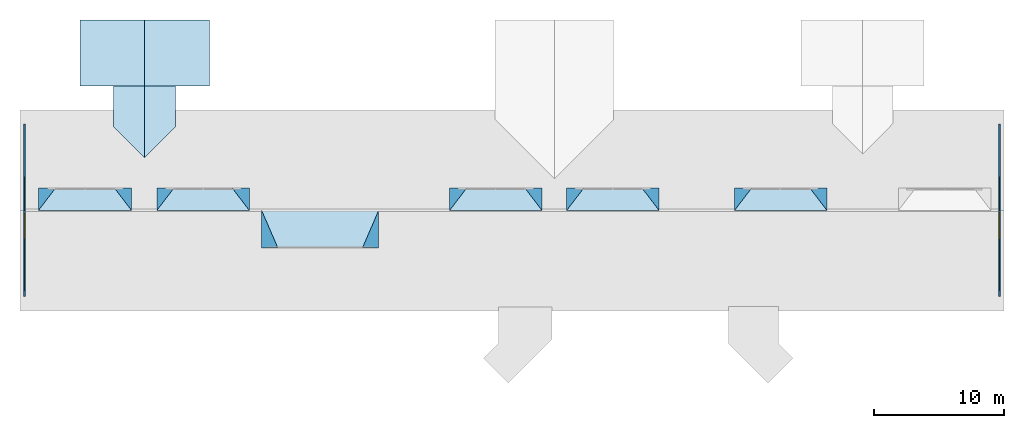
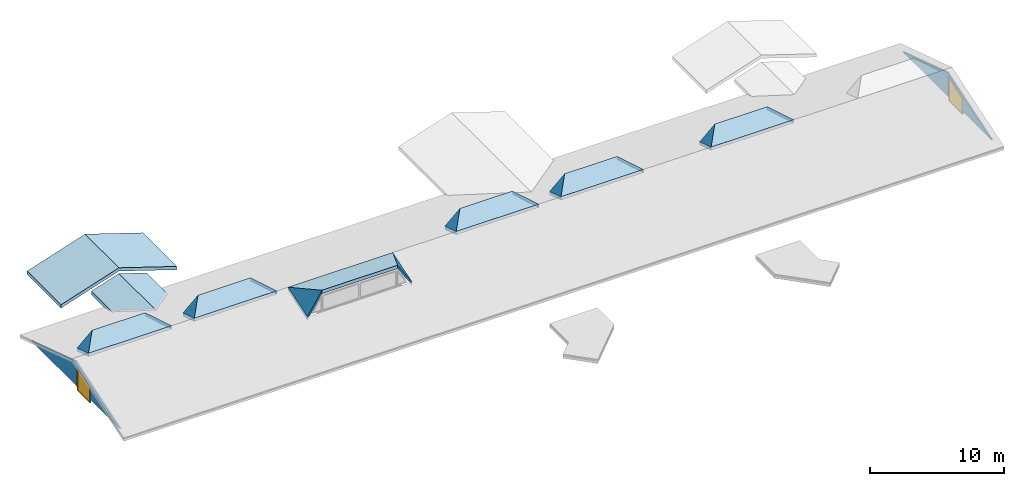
# One storey, part 1 of 7: 20 roofs, 2 walls, 2 windows, 2 openings.
"""IFC2X3 building model written with IfcOpenShell, lengths in millimetres."""

from ifc_helpers import new_model, entity, si_unit, converted_unit, derived_unit, money_unit, direction, frame, origin_with_axes, place, context, subcontext, project, spatial, open_shell, faceted_brep, surface_model, source, transform, mapped, material, type_object, element, fill, save


model = new_model("IFC2X3")

# Units and contexts
model_context = context("Model", 3, precision=0.01, world=origin_with_axes(), true_north=direction((0.0, 1.0)))
body_context = subcontext(model_context, "Body", "Model", "MODEL_VIEW")
ifc_project = project(units=[si_unit("LENGTHUNIT", "METRE", prefix="MILLI"), si_unit("AREAUNIT", "SQUARE_METRE"), si_unit("VOLUMEUNIT", "CUBIC_METRE"), converted_unit("PLANEANGLEUNIT", "DEGREE", entity("IfcPlaneAngleMeasure", 0.0174532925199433), si_unit("PLANEANGLEUNIT", "RADIAN"), dimensions=[0, 0, 0, 0, 0, 0, 0]), money_unit("USD"), converted_unit("TIMEUNIT", "Year", entity("IfcTimeMeasure", 31557600.0), si_unit("TIMEUNIT", "SECOND"), dimensions=[0, 0, 1, 0, 0, 0, 0]), si_unit("MASSUNIT", "GRAM", prefix="KILO"), si_unit("THERMODYNAMICTEMPERATUREUNIT", "DEGREE_CELSIUS"), si_unit("LUMINOUSINTENSITYUNIT", "LUMEN"), si_unit("ENERGYUNIT", "JOULE", prefix="MEGA"), derived_unit("THERMALCONDUCTANCEUNIT", [(si_unit("POWERUNIT", "WATT"), 1), (si_unit("LENGTHUNIT", "METRE"), -1), (si_unit("THERMODYNAMICTEMPERATUREUNIT", "KELVIN"), -1)]), derived_unit("SPECIFICHEATCAPACITYUNIT", [(si_unit("ENERGYUNIT", "JOULE"), 1), (si_unit("MASSUNIT", "GRAM", prefix="KILO"), -1), (si_unit("THERMODYNAMICTEMPERATUREUNIT", "KELVIN"), -1)]), derived_unit("MASSDENSITYUNIT", [(si_unit("MASSUNIT", "GRAM", prefix="KILO"), 1), (si_unit("VOLUMEUNIT", "CUBIC_METRE"), -1)])], contexts=[model_context])

# Site, building, storey
site_placement = place(None, origin_with_axes())
site = spatial("IfcSite", under=ifc_project, at=site_placement, Name="Site", CompositionType="ELEMENT")
building_placement = place(site_placement, origin_with_axes())
building = spatial("IfcBuilding", under=site, at=building_placement, Name="Building", CompositionType="ELEMENT")
storey_placement = place(building_placement, frame((0.0, 0.0, 5900.0), z_axis=(0.0, 0.0, 1.0), x_axis=(1.0, 0.0, 0.0)))
storey = spatial("IfcBuildingStorey", under=building, at=storey_placement, Name="TAK", CompositionType="ELEMENT", Elevation=5900.0)

# Wall, opening, window
ifc_material_1 = material(Name="GENERIC - STRUCTURAL")
wall_type = type_object("IfcWallType", Name="GENERIC - STRUCTURAL 120", PredefinedType="NOTDEFINED")
wall_1_placement = place(storey_placement, frame((72390.0, 7199.999999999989, 0.0), z_axis=(0.0, 0.0, 1.0), x_axis=(0.0, 1.0, 0.0)))
wall_1 = element("IfcWall", 1, at=wall_1_placement, inside=storey, type_object=wall_type, material=ifc_material_1, Name="SW - 001", context=body_context, shape_type="Brep", body=[
    faceted_brep([(5085.2615628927, -119.9999999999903, 0.0), (5085.2615628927, -119.9999999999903, 1129.71220870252), (7149.33174533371, -119.9999999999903, 1847.67868258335), (7149.331745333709, -119.9999999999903, 0.0), (13919.44143754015, -119.9999999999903, 0.0), (7300.062761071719, -120.0000000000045, 2148.536255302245), (680.6840855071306, -119.9999999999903, 0.0), (5085.2615628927, 0.0, 0.0), (5085.2615628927, 0.0, 1129.71220870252), (7149.33174533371, 0.0, 1847.67868258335), (7149.331745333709, 0.0, 0.0), (13919.44143754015, 0.0, 0.0), (7300.062761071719, 0.0, 2148.536255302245), (680.6840855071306, 0.0, 0.0)], [[[0, 1, 2, 3, 4, 5, 6]], [[1, 0, 7, 8]], [[2, 1, 8, 9]], [[3, 2, 9, 10]], [[3, 10, 11, 4]], [[5, 4, 11, 12]], [[6, 5, 12, 13]], [[7, 0, 6, 13]], [[8, 7, 13, 12, 11, 10, 9]]]),
])
opening_1_placement = place(wall_1_placement, frame((6117.296654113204, 0.0, -370.2877912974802), z_axis=(0.0, 0.0, 1.0), x_axis=(1.0, 0.0, 0.0)))
opening_1 = element("IfcOpeningElement", 2, at=opening_1_placement, cuts=wall_1, Name="WD - 001", context=body_context, shape_type="Brep", body=[
    faceted_brep([(1032.035091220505, 1.000000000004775, 2217.96647388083), (1032.035091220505, 1.000000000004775, 0.0), (-1032.035091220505, 1.000000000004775, 0.0), (-1032.035091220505, 1.000000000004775, 1500.0), (1032.035091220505, -121.0000000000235, 2217.96647388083), (1032.035091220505, -121.0000000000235, 0.0), (-1032.035091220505, -121.0000000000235, 0.0), (-1032.035091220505, -121.0000000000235, 1500.0)], [[[0, 1, 2, 3]], [[4, 5, 1, 0]], [[5, 6, 2, 1]], [[6, 7, 3, 2]], [[7, 4, 0, 3]], [[6, 5, 4, 7]]]),
])
window_style = type_object("IfcWindowStyle", Name="Vindu med skrå topp", ConstructionType="NOTDEFINED", OperationType="USERDEFINED", ParameterTakesPrecedence=False, Sizeable=False)
shared_shape_1 = source(origin_with_axes(), body_context, "Body", "SurfaceModel", [
    faceted_brep([(966.0350912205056, -92.00000000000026, 2125.130239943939), (1032.035091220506, -92.00000000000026, 2125.130239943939), (1032.035091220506, 0.0, 2125.130239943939), (966.0350912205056, 0.0, 2125.130239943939), (966.0350912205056, -92.0, 66.0), (1032.035091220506, -92.0, 66.0), (1032.035091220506, 0.0, 66.0), (966.0350912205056, 0.0, 66.0)], [[[0, 1, 2, 3]], [[0, 4, 5, 1]], [[1, 5, 6, 2]], [[3, 2, 6, 7]], [[4, 0, 3, 7]], [[5, 4, 7, 6]]]),
    faceted_brep([(-966.0350912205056, -92.0, 66.0), (-1032.035091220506, -92.0, 66.0), (-1032.035091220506, 0.0, 66.0), (-966.0350912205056, 0.0, 66.0), (-966.0350912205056, -92.00000000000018, 1453.078665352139), (-1032.035091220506, -92.00000000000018, 1453.078665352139), (-1032.035091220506, 0.0, 1453.078665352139), (-966.0350912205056, 0.0, 1453.078665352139)], [[[0, 1, 2, 3]], [[0, 4, 5, 1]], [[1, 5, 6, 2]], [[3, 2, 6, 7]], [[4, 0, 3, 7]], [[5, 4, 7, 6]]]),
    faceted_brep([(1032.035091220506, -92.00000000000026, 2217.96647388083), (1032.035091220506, -92.00000000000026, 2125.130239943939), (1032.035091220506, 0.0, 2125.130239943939), (1032.035091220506, 0.0, 2217.96647388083), (-1032.035091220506, -92.00000000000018, 1500.0), (-1032.035091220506, -92.00000000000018, 1453.078665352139), (-966.0350912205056, -92.00000000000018, 1453.078665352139), (966.0350912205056, -92.00000000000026, 2125.130239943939), (966.0350912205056, 0.0, 2125.130239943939), (-966.0350912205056, 0.0, 1453.078665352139), (-1032.035091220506, 0.0, 1453.078665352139), (-1032.035091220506, 0.0, 1500.0)], [[[0, 1, 2, 3]], [[0, 4, 5, 6, 7, 1]], [[1, 7, 8, 2]], [[3, 2, 8, 9, 10, 11]], [[4, 0, 3, 11]], [[5, 4, 11, 10]], [[6, 5, 10, 9]], [[7, 6, 9, 8]]]),
    faceted_brep([(-1032.035091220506, -92.0, 0.0), (-1032.035091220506, -92.0, 66.0), (-1032.035091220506, 0.0, 66.0), (-1032.035091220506, 0.0, 0.0), (1032.035091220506, -92.0, 0.0), (1032.035091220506, -92.0, 66.0), (966.0350912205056, -92.0, 66.0), (-966.0350912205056, -92.0, 66.0), (-966.0350912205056, 0.0, 66.0), (966.0350912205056, 0.0, 66.0), (1032.035091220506, 0.0, 66.0), (1032.035091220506, 0.0, 0.0)], [[[0, 1, 2, 3]], [[0, 4, 5, 6, 7, 1]], [[1, 7, 8, 2]], [[3, 2, 8, 9, 10, 11]], [[4, 0, 3, 11]], [[5, 4, 11, 10]], [[6, 5, 10, 9]], [[7, 6, 9, 8]]]),
    surface_model("IfcShellBasedSurfaceModel", [(966.0350912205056, -56.0, 66.0), (966.0350912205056, -56.00000000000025, 2125.130239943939), (-966.0350912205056, -56.00000000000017, 1453.078665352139), (-966.0350912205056, -56.0, 66.0)], [open_shell([[[0, 1, 2, 3]]])]),
    surface_model("IfcShellBasedSurfaceModel", [(966.0350912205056, -36.00000000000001, 66.0), (-966.0350912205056, -36.00000000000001, 66.0), (-966.0350912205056, -36.00000000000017, 1453.078665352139), (966.0350912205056, -36.00000000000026, 2125.130239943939)], [open_shell([[[0, 1, 2, 3]]])]),
])
window_1_placement = place(opening_1_placement, frame((-1032.035091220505, 0.0, 0.0), z_axis=(0.0, 0.0, 1.0), x_axis=(1.0, 0.0, 0.0)))
window_1 = element("IfcWindow", 3, at=window_1_placement, inside=storey, type_object=window_style, Name="WD - 001", ObjectType="WINDOW", OverallHeight=2217.97, OverallWidth=2064.07, context=body_context, shape_type="MappedRepresentation", body=[
    mapped(shared_shape_1, transform((1032.035091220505, -28.0000000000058, 0.0))),
])
fill(opening_1, window_1)

wall_2_placement = place(storey_placement, frame((-2400.260572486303, 21800.12552457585, 0.0), z_axis=(0.0, 0.0, 1.0), x_axis=(0.0, -1.0, 0.0)))
wall_2 = element("IfcWall", 4, at=wall_2_placement, inside=storey, type_object=wall_type, material=ifc_material_1, Name="SW - 001", context=body_context, shape_type="Brep", body=[
    faceted_brep([(9467.615796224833, 0.0, 0.0), (9467.615796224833, 0.0, 1129.71220870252), (7532.382365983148, 0.0, 1760.430302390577), (7532.382365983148, 0.0, 0.0), (680.6840870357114, 0.0, 0.0), (7300.062763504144, 0.0, 2148.536255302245), (13919.44143906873, 0.0, 0.0), (9467.615796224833, -120.0000000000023, 0.0), (9467.615796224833, -120.0000000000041, 1129.71220870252), (7532.382365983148, -120.0000000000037, 1760.430302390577), (7532.382365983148, -120.000000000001, 0.0), (680.6840870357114, -119.9999999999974, 0.0), (7300.062763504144, -119.9999999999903, 2148.536255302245), (13919.44143906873, -120.0000000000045, 0.0)], [[[0, 1, 2, 3, 4, 5, 6]], [[1, 0, 7, 8]], [[2, 1, 8, 9]], [[3, 2, 9, 10]], [[3, 10, 11, 4]], [[5, 4, 11, 12]], [[6, 5, 12, 13]], [[7, 0, 6, 13]], [[8, 7, 13, 12, 11, 10, 9]]]),
])
opening_2_placement = place(wall_2_placement, frame((8499.99908110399, 0.0, -370.2877912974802), z_axis=(0.0, 0.0, 1.0), x_axis=(1.0, 0.0, 0.0)))
opening_2 = element("IfcOpeningElement", 5, at=opening_2_placement, cuts=wall_2, Name="WD - 001", context=body_context, shape_type="Brep", body=[
    faceted_brep([(967.6167151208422, 0.9999999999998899, 1500.0), (967.6167151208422, 0.9999999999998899, 0.0), (-967.6167151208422, 0.9999999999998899, 0.0), (-967.6167151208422, 1.000000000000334, 2130.718093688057), (967.6167151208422, -121.0, 1500.0), (967.6167151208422, -121.0, 0.0), (-967.6167151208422, -121.0, 0.0), (-967.6167151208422, -120.9999999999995, 2130.718093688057)], [[[0, 1, 2, 3]], [[4, 5, 1, 0]], [[5, 6, 2, 1]], [[6, 7, 3, 2]], [[7, 4, 0, 3]], [[6, 5, 4, 7]]]),
])
shared_shape_2 = source(origin_with_axes(), body_context, "Body", "SurfaceModel", [
    faceted_brep([(-901.6167151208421, -92.00000000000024, 2039.791026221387), (-901.6167151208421, 0.0, 2039.791026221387), (-967.6167151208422, 0.0, 2039.791026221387), (-967.6167151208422, -92.00000000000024, 2039.791026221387), (-901.6167151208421, -92.0, 66.0), (-901.6167151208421, 0.0, 66.0), (-967.6167151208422, 0.0, 66.0), (-967.6167151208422, -92.0, 66.0)], [[[0, 1, 2, 3]], [[4, 5, 1, 0]], [[1, 5, 6, 2]], [[3, 2, 6, 7]], [[0, 3, 7, 4]], [[7, 6, 5, 4]]]),
    faceted_brep([(901.6167151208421, -92.0, 66.0), (901.6167151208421, 0.0, 66.0), (967.6167151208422, 0.0, 66.0), (967.6167151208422, -92.0, 66.0), (901.6167151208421, -92.00000000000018, 1452.093473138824), (901.6167151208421, 0.0, 1452.093473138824), (967.6167151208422, 0.0, 1452.093473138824), (967.6167151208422, -92.00000000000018, 1452.093473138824)], [[[0, 1, 2, 3]], [[4, 5, 1, 0]], [[1, 5, 6, 2]], [[3, 2, 6, 7]], [[0, 3, 7, 4]], [[7, 6, 5, 4]]]),
    faceted_brep([(-967.6167151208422, -92.00000000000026, 2130.718093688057), (-967.6167151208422, 0.0, 2130.718093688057), (-967.6167151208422, 0.0, 2039.791026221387), (-967.6167151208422, -92.00000000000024, 2039.791026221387), (967.6167151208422, -92.00000000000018, 1500.0), (967.6167151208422, 0.0, 1500.0), (967.6167151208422, 0.0, 1452.093473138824), (901.6167151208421, 0.0, 1452.093473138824), (-901.6167151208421, 0.0, 2039.791026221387), (-901.6167151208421, -92.00000000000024, 2039.791026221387), (901.6167151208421, -92.00000000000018, 1452.093473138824), (967.6167151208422, -92.00000000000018, 1452.093473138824)], [[[0, 1, 2, 3]], [[4, 5, 1, 0]], [[1, 5, 6, 7, 8, 2]], [[3, 2, 8, 9]], [[0, 3, 9, 10, 11, 4]], [[11, 6, 5, 4]], [[10, 7, 6, 11]], [[9, 8, 7, 10]]]),
    faceted_brep([(967.6167151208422, -92.0, 0.0), (967.6167151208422, 0.0, 0.0), (967.6167151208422, 0.0, 66.0), (967.6167151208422, -92.0, 66.0), (-967.6167151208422, -92.0, 0.0), (-967.6167151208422, 0.0, 0.0), (-967.6167151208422, 0.0, 66.0), (-901.6167151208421, 0.0, 66.0), (901.6167151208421, 0.0, 66.0), (901.6167151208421, -92.0, 66.0), (-901.6167151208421, -92.0, 66.0), (-967.6167151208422, -92.0, 66.0)], [[[0, 1, 2, 3]], [[4, 5, 1, 0]], [[1, 5, 6, 7, 8, 2]], [[3, 2, 8, 9]], [[0, 3, 9, 10, 11, 4]], [[11, 6, 5, 4]], [[10, 7, 6, 11]], [[9, 8, 7, 10]]]),
    surface_model("IfcShellBasedSurfaceModel", [(-901.6167151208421, -56.0, 66.0), (901.6167151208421, -56.0, 66.0), (901.6167151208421, -56.00000000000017, 1452.093473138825), (-901.6167151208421, -56.00000000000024, 2039.791026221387)], [open_shell([[[0, 1, 2, 3]]])]),
    surface_model("IfcShellBasedSurfaceModel", [(-901.6167151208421, -36.00000000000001, 66.0), (-901.6167151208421, -36.00000000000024, 2039.791026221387), (901.6167151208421, -36.00000000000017, 1452.093473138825), (901.6167151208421, -36.00000000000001, 66.0)], [open_shell([[[0, 1, 2, 3]]])]),
])
window_2_placement = place(opening_2_placement, frame((-967.6167151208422, 0.0, 0.0), z_axis=(0.0, 0.0, 1.0), x_axis=(1.0, 0.0, 0.0)))
window_2 = element("IfcWindow", 6, at=window_2_placement, inside=storey, type_object=window_style, Name="WD - 001", ObjectType="WINDOW", OverallHeight=2130.72, OverallWidth=1935.23, context=body_context, shape_type="MappedRepresentation", body=[
    mapped(shared_shape_2, transform((967.6167151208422, -28.0000000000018, 0.0))),
])
fill(opening_2, window_2)

# Roofs
ifc_material_2 = material(Name="Membrane - Waterproof")
roof_1_placement = place(storey_placement, frame((6752.558934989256, 26599.93084139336, -281.2311378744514), z_axis=(0.0, 0.0, 1.0), x_axis=(1.0, 0.0, 0.0)))
element("IfcRoof", 7, at=roof_1_placement, inside=storey, material=ifc_material_2, Name="RT - 001", ShapeType="NOTDEFINED", context=body_context, shape_type="Brep", body=[
    faceted_brep([(-4975.037325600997, 2525.069162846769, 235.8353531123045), (-4975.037325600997, -2525.069162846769, 235.8353531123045), (-2.558546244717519, -2525.069163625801, 1851.49293080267), (-2.558546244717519, 2525.069161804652, 1851.49293080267), (-4975.037325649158, 2525.069163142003, -64.16467008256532), (-4975.037325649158, -2525.069163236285, -64.16467008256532), (-2.558550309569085, -2525.069163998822, 1551.492906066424), (4975.037325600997, -2525.069162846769, 234.1725453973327), (4975.037325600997, 2525.069162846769, 234.1725453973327), (-2.558550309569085, 2525.06916144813, 1551.492906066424), (4975.037325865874, -2525.069163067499, -65.82748074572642), (4975.037325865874, 2525.069163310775, -65.82748074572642)], [[[0, 1, 2, 3]], [[0, 4, 5, 1]], [[1, 5, 6, 2]], [[7, 8, 3, 2]], [[4, 0, 3, 9]], [[5, 4, 9, 6]], [[10, 7, 2, 6]], [[7, 10, 11, 8]], [[8, 11, 9, 3]], [[11, 10, 6, 9]]]),
])
roof_2_placement = place(storey_placement, frame((6750.000390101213, 20686.7998855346, -22.36052420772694), z_axis=(0.0, 0.0, 1.0), x_axis=(1.0, 0.0, 0.0)))
element("IfcRoof", 8, at=roof_2_placement, inside=storey, material=ifc_material_2, Name="RT - 001", ShapeType="NOTDEFINED", context=body_context, shape_type="Brep", body=[
    faceted_brep([(2375.000390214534, 3388.061793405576, -6.56552145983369e-07), (2375.000390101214, 3388.061793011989, 299.9999998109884), (2375.000390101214, 225.089423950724, 299.9999998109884), (2375.000390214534, 1149.352908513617, -6.565530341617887e-07), (-8.516813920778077e-07, 3388.061792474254, 771.6844049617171), (-6.187939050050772e-07, 3388.061792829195, 1071.684405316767), (-6.187939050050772e-07, -2152.37629772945, 1071.684405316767), (-2375.000390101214, 225.0894234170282, 299.9999999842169), (-2375.000389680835, 1149.352906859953, -1.198019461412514e-07), (-2.308357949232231e-06, -1228.112813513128, 771.6844049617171), (-2375.000389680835, 3388.061793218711, -3.099147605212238e-07), (-2375.000390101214, 3388.061793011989, 299.9999999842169)], [[[0, 1, 2, 3]], [[4, 5, 1, 0]], [[1, 5, 6, 2]], [[7, 8, 9, 3, 2, 6]], [[4, 0, 3, 9]], [[5, 4, 10, 11]], [[5, 11, 7, 6]], [[11, 10, 8, 7]], [[10, 4, 9, 8]]]),
])
roof_3_placement = place(storey_placement, frame((16000.65490592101, 14551.63263065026, 2576.123532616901), z_axis=(0.0, 0.0, 1.0), x_axis=(0.2015196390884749, -0.9794844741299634, 0.0)))
element("IfcRoof", 9, at=roof_3_placement, inside=storey, material=ifc_material_2, Name="RT - 001", ShapeType="NOTDEFINED", context=body_context, shape_type="Brep", body=[
    faceted_brep([(2826.242841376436, -837.3775847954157, -1048.743655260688), (3078.142390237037, 386.978007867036, 923.2960402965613), (0.0, -255.9049301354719, -112.1798303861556), (3078.142390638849, 386.9780080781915, 623.2960403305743), (2826.242841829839, -837.3775848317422, -1348.743655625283), (1.868727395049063e-08, -255.9049298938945, -412.1798303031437)], [[[0, 1, 2]], [[3, 1, 0, 4]], [[5, 2, 1, 3]], [[4, 0, 2, 5]], [[4, 5, 3]]]),
])
roof_4_placement = place(storey_placement, frame((52099.99999999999, 14500.06276148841, 2163.943702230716), z_axis=(0.0, 0.0, 1.0), x_axis=(0.3413713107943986, 0.9399285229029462, 0.0)))
element("IfcRoof", 10, at=roof_4_placement, inside=storey, material=ifc_material_2, Name="RT - 001", ShapeType="NOTDEFINED", context=body_context, shape_type="Brep", body=[
    faceted_brep([(0.0, 0.0, 299.9999999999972), (2041.602201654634, -641.5972763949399, 910.0437074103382), (1597.819497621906, 580.309803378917, -251.7703346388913), (-3.58816976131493e-07, 2.699920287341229e-07, -1.468336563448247e-07), (2041.602201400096, -641.5972766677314, 610.0437077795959), (1597.819497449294, 580.3098036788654, -551.770334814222)], [[[0, 1, 2]], [[1, 0, 3, 4]], [[2, 1, 4, 5]], [[0, 2, 5, 3]], [[4, 3, 5]]]),
])
roof_5_placement = place(storey_placement, frame((8987.145565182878, 16200.0, 2773.987409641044), z_axis=(0.0, 0.0, 1.0), x_axis=(1.0, 0.0, 0.0)))
element("IfcRoof", 11, at=roof_5_placement, inside=storey, material=ifc_material_2, Name="RT - 001", ShapeType="NOTDEFINED", context=body_context, shape_type="Brep", body=[
    faceted_brep([(4512.854434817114, 0.0, 300.0000000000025), (12.85443481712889, 0.0, 300.0000000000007), (-1287.145565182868, -1699.937238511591, -310.043707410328), (5812.854434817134, -1699.937238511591, -310.043707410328), (4512.854434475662, 3.664055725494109e-07, 2.521165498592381e-07), (12.85443448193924, 3.664055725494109e-07, 2.521165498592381e-07), (-1287.145565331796, -1699.937238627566, -610.0437073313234), (5812.85443522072, -1699.937238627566, -610.0437073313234)], [[[0, 1, 2, 3]], [[0, 4, 5, 1]], [[1, 5, 6, 2]], [[2, 6, 7, 3]], [[3, 7, 4, 0]], [[7, 6, 5, 4]]]),
])
roof_6_placement = place(storey_placement, frame((14800.00000000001, 14500.06276148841, 2163.94370223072), z_axis=(0.0, 0.0, 1.0), x_axis=(-0.3413713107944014, 0.9399285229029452, 0.0)))
element("IfcRoof", 12, at=roof_6_placement, inside=storey, material=ifc_material_2, Name="RT - 001", ShapeType="NOTDEFINED", context=body_context, shape_type="Brep", body=[
    faceted_brep([(1597.819497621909, -580.3098033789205, -251.7703346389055), (2041.602201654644, 641.5972763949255, 910.0437074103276), (0.0, 0.0, 299.9999999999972), (1597.819497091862, -580.3098036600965, -551.7703347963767), (2041.602201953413, 641.5972766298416, 610.0437077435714), (2.891713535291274e-07, -2.781241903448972e-07, -1.545714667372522e-07)], [[[0, 1, 2]], [[1, 0, 3, 4]], [[2, 1, 4, 5]], [[0, 2, 5, 3]], [[4, 3, 5]]]),
])
roof_7_placement = place(storey_placement, frame((39199.99999999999, 14500.06276148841, 2163.943702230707), z_axis=(0.0, 0.0, 1.0), x_axis=(0.3413713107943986, 0.9399285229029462, 0.0)))
element("IfcRoof", 13, at=roof_7_placement, inside=storey, material=ifc_material_2, Name="RT - 001", ShapeType="NOTDEFINED", context=body_context, shape_type="Brep", body=[
    faceted_brep([(0.0, 0.0, 300.0000000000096), (2041.602201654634, -641.5972763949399, 910.0437074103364), (1597.819497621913, 580.3098033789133, -251.7703346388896), (-3.58816976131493e-07, 2.699920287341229e-07, -1.468283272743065e-07), (2041.602201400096, -641.5972766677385, 610.0437077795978), (1597.819497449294, 580.3098036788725, -551.7703348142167)], [[[0, 1, 2]], [[1, 0, 3, 4]], [[2, 1, 4, 5]], [[0, 2, 5, 3]], [[4, 3, 5]]]),
])
roof_8_placement = place(storey_placement, frame((59199.99999999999, 14500.06276148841, 2163.94370223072), z_axis=(0.0, 0.0, 1.0), x_axis=(-0.3413713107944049, 0.9399285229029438, 0.0)))
element("IfcRoof", 14, at=roof_8_placement, inside=storey, material=ifc_material_2, Name="RT - 001", ShapeType="NOTDEFINED", context=body_context, shape_type="Brep", body=[
    faceted_brep([(1597.819497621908, -580.3098033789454, -251.7703346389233), (2041.602201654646, 641.5972763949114, 910.0437074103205), (0.0, 0.0, 299.9999999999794), (1597.819497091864, -580.309803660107, -551.7703347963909), (2041.60220195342, 641.597276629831, 610.0437077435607), (2.89178458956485e-07, -2.78127743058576e-07, -1.54575019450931e-07)], [[[0, 1, 2]], [[1, 0, 3, 4]], [[2, 1, 4, 5]], [[0, 2, 5, 3]], [[4, 3, 5]]]),
])
roof_9_placement = place(storey_placement, frame((53387.14556518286, 16200.0, 2773.987409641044), z_axis=(0.0, 0.0, 1.0), x_axis=(1.0, 0.0, 0.0)))
element("IfcRoof", 15, at=roof_9_placement, inside=storey, material=ifc_material_2, Name="RT - 001", ShapeType="NOTDEFINED", context=body_context, shape_type="Brep", body=[
    faceted_brep([(4512.854434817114, 0.0, 300.0000000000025), (12.8544348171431, 0.0, 299.9999999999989), (-1287.145565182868, -1699.937238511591, -310.043707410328), (5812.85443481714, -1699.937238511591, -310.043707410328), (4512.85443447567, 3.664055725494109e-07, 2.521165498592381e-07), (12.85443448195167, 3.664055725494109e-07, 2.521165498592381e-07), (-1287.145565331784, -1699.937238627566, -610.0437073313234), (5812.854435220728, -1699.937238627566, -610.0437073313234)], [[[0, 1, 2, 3]], [[0, 4, 5, 1]], [[1, 5, 6, 2]], [[2, 6, 7, 3]], [[3, 7, 4, 0]], [[7, 6, 5, 4]]]),
])
roof_10_placement = place(storey_placement, frame((5750.000000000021, 14500.06276148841, 2163.94370223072), z_axis=(0.0, 0.0, 1.0), x_axis=(-0.3413713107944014, 0.9399285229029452, 0.0)))
element("IfcRoof", 16, at=roof_10_placement, inside=storey, material=ifc_material_2, Name="RT - 001", ShapeType="NOTDEFINED", context=body_context, shape_type="Brep", body=[
    faceted_brep([(1597.819497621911, -580.309803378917, -251.7703346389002), (2041.602201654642, 641.5972763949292, 910.0437074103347), (0.0, 0.0, 300.0000000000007), (1597.819497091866, -580.3098036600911, -551.7703347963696), (2041.602201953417, 641.5972766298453, 610.0437077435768), (2.891731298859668e-07, -2.781224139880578e-07, -1.54566137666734e-07)], [[[0, 1, 2]], [[1, 0, 3, 4]], [[2, 1, 4, 5]], [[0, 2, 5, 3]], [[4, 3, 5]]]),
])
roof_11_placement = place(storey_placement, frame((31487.14556518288, 16200.0, 2773.987409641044), z_axis=(0.0, 0.0, 1.0), x_axis=(1.0, 0.0, 0.0)))
element("IfcRoof", 17, at=roof_11_placement, inside=storey, material=ifc_material_2, Name="RT - 001", ShapeType="NOTDEFINED", context=body_context, shape_type="Brep", body=[
    faceted_brep([(4512.854434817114, 0.0, 300.0000000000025), (12.8544348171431, 0.0, 300.0000000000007), (-1287.145565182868, -1699.937238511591, -310.043707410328), (5812.85443481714, -1699.937238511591, -310.043707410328), (4512.85443447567, 3.664055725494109e-07, 2.521165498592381e-07), (12.85443448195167, 3.664055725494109e-07, 2.521165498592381e-07), (-1287.145565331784, -1699.937238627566, -610.0437073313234), (5812.854435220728, -1699.937238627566, -610.0437073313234)], [[[0, 1, 2, 3]], [[0, 4, 5, 1]], [[1, 5, 6, 2]], [[2, 6, 7, 3]], [[3, 7, 4, 0]], [[7, 6, 5, 4]]]),
])
roof_12_placement = place(storey_placement, frame((24499.34509407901, 14551.63263065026, 2576.123532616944), z_axis=(0.0, 0.0, 1.0), x_axis=(-0.2015196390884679, -0.9794844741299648, 0.0)))
element("IfcRoof", 18, at=roof_12_placement, inside=storey, material=ifc_material_2, Name="RT - 001", ShapeType="NOTDEFINED", context=body_context, shape_type="Brep", body=[
    faceted_brep([(2826.242841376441, 837.3775847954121, -1048.743655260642), (0.0, 255.9049301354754, -112.1798303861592), (3078.142390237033, -386.978007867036, 923.2960402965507), (-4.109459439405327e-07, 255.9049298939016, -412.1798303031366), (2826.242841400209, 837.3775848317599, -1348.743655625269), (3078.142390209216, -386.9780080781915, 623.2960403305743)], [[[0, 1, 2]], [[3, 1, 0, 4]], [[5, 2, 1, 3]], [[4, 0, 2, 5]], [[4, 5, 3]]]),
])
roof_13_placement = place(storey_placement, frame((37300.00000000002, 14500.06276148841, 2163.94370223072), z_axis=(0.0, 0.0, 1.0), x_axis=(-0.3413713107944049, 0.9399285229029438, 0.0)))
element("IfcRoof", 19, at=roof_13_placement, inside=storey, material=ifc_material_2, Name="RT - 001", ShapeType="NOTDEFINED", context=body_context, shape_type="Brep", body=[
    faceted_brep([(1597.819497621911, -580.309803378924, -251.770334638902), (2041.602201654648, 641.5972763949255, 910.0437074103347), (0.0, 0.0, 300.0000000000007), (1597.819497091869, -580.3098036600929, -551.7703347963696), (2041.602201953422, 641.5972766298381, 610.0437077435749), (2.891802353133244e-07, -2.781206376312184e-07, -1.545679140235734e-07)], [[[0, 1, 2]], [[1, 0, 3, 4]], [[2, 1, 4, 5]], [[0, 2, 5, 3]], [[4, 3, 5]]]),
])
roof_14_placement = place(storey_placement, frame((40487.14556518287, 16200.0, 2773.987409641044), z_axis=(0.0, 0.0, 1.0), x_axis=(1.0, 0.0, 0.0)))
element("IfcRoof", 20, at=roof_14_placement, inside=storey, material=ifc_material_2, Name="RT - 001", ShapeType="NOTDEFINED", context=body_context, shape_type="Brep", body=[
    faceted_brep([(4512.854434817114, 0.0, 300.0000000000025), (12.8544348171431, 0.0, 300.0000000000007), (-1287.145565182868, -1699.937238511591, -310.043707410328), (5812.85443481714, -1699.937238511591, -310.043707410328), (4512.85443447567, 3.664055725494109e-07, 2.521165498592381e-07), (12.85443448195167, 3.664055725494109e-07, 2.521165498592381e-07), (-1287.145565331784, -1699.937238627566, -610.0437073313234), (5812.854435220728, -1699.937238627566, -610.0437073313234)], [[[0, 1, 2, 3]], [[0, 4, 5, 1]], [[1, 5, 6, 2]], [[2, 6, 7, 3]], [[3, 7, 4, 0]], [[7, 6, 5, 4]]]),
])
roof_15_placement = place(storey_placement, frame((46300.00000000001, 14500.06276148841, 2163.94370223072), z_axis=(0.0, 0.0, 1.0), x_axis=(-0.3413713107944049, 0.9399285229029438, 0.0)))
element("IfcRoof", 21, at=roof_15_placement, inside=storey, material=ifc_material_2, Name="RT - 001", ShapeType="NOTDEFINED", context=body_context, shape_type="Brep", body=[
    faceted_brep([(1597.819497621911, -580.309803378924, -251.7703346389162), (2041.602201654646, 641.5972763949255, 910.0437074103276), (0.0, 0.0, 299.9999999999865), (1597.819497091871, -580.3098036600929, -551.7703347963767), (2041.602201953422, 641.5972766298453, 610.0437077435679), (2.891766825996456e-07, -2.781206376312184e-07, -1.545679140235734e-07)], [[[0, 1, 2]], [[1, 0, 3, 4]], [[2, 1, 4, 5]], [[0, 2, 5, 3]], [[4, 3, 5]]]),
])
roof_16_placement = place(storey_placement, frame((24032.02051624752, 12800.12552297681, 2773.987409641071), z_axis=(0.0, 0.0, 1.0), x_axis=(-1.0, 0.0, 0.0)))
element("IfcRoof", 22, at=roof_16_placement, inside=storey, material=ifc_material_2, Name="RT - 001", ShapeType="NOTDEFINED", context=body_context, shape_type="Brep", body=[
    faceted_brep([(8282.020516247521, -1699.937238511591, -310.0437074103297), (7032.020516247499, 1185.501904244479, 725.4321632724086), (532.0205162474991, 1185.501904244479, 725.4321632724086), (-717.9794837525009, -1699.937238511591, -310.0437074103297), (8282.02051663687, -1699.937238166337, -610.0437071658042), (7032.020516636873, 1185.501904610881, 425.4321635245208), (532.0205166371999, 1185.501904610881, 425.4321635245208), (-717.9794833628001, -1699.937238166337, -610.0437071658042)], [[[0, 1, 2, 3]], [[0, 4, 5, 1]], [[1, 5, 6, 2]], [[2, 6, 7, 3]], [[3, 7, 4, 0]], [[7, 6, 5, 4]]]),
])
roof_17_placement = place(storey_placement, frame((7699.999999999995, 14500.06276148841, 2163.943702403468), z_axis=(0.0, 0.0, 1.0), x_axis=(0.3413713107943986, 0.9399285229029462, 0.0)))
element("IfcRoof", 23, at=roof_17_placement, inside=storey, material=ifc_material_2, Name="RT - 001", ShapeType="NOTDEFINED", context=body_context, shape_type="Brep", body=[
    faceted_brep([(0.0, 0.0, 299.9999999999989), (2041.602201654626, -641.5972763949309, 910.0437074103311), (1597.819497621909, 580.3098033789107, -251.7703346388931), (-3.588134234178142e-07, 2.699911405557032e-07, -1.468354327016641e-07), (2041.602201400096, -641.5972766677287, 610.0437077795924), (1597.819497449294, 580.3098036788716, -551.7703348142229)], [[[0, 1, 2]], [[1, 0, 3, 4]], [[2, 1, 4, 5]], [[0, 2, 5, 3]], [[4, 3, 5]]]),
])
roof_18_placement = place(storey_placement, frame((-1399.999999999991, 14500.06276148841, 2163.943702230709), z_axis=(0.0, 0.0, 1.0), x_axis=(0.3413713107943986, 0.9399285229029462, 0.0)))
element("IfcRoof", 24, at=roof_18_placement, inside=storey, material=ifc_material_2, Name="RT - 001", ShapeType="NOTDEFINED", context=body_context, shape_type="Brep", body=[
    faceted_brep([(0.0, 0.0, 299.9999999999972), (2041.602201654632, -641.5972763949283, 910.0437074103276), (1597.819497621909, 580.3098033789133, -251.7703346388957), (-3.588116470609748e-07, 2.699929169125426e-07, -1.468372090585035e-07), (2041.602201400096, -641.5972766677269, 610.0437077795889), (1597.819497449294, 580.3098036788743, -551.7703348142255)], [[[0, 1, 2]], [[1, 0, 3, 4]], [[2, 1, 4, 5]], [[0, 2, 5, 3]], [[4, 3, 5]]]),
])
roof_19_placement = place(storey_placement, frame((30200.00000000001, 14500.06276148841, 2163.94370223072), z_axis=(0.0, 0.0, 1.0), x_axis=(0.3413713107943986, 0.9399285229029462, 0.0)))
element("IfcRoof", 25, at=roof_19_placement, inside=storey, material=ifc_material_2, Name="RT - 001", ShapeType="NOTDEFINED", context=body_context, shape_type="Brep", body=[
    faceted_brep([(0.0, 0.0, 300.0000000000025), (2041.60220165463, -641.5972763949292, 910.0437074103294), (1597.819497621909, 580.3098033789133, -251.7703346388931), (-3.588205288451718e-07, 2.699920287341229e-07, -1.468389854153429e-07), (2041.602201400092, -641.5972766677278, 610.0437077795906), (1597.81949744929, 580.3098036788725, -551.7703348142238)], [[[0, 1, 2]], [[1, 0, 3, 4]], [[2, 1, 4, 5]], [[0, 2, 5, 3]], [[4, 3, 5]]]),
])
roof_20_placement = place(storey_placement, frame((-112.854434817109, 16200.0, 2773.987409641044), z_axis=(0.0, 0.0, 1.0), x_axis=(1.0, 0.0, 0.0)))
element("IfcRoof", 26, at=roof_20_placement, inside=storey, material=ifc_material_2, Name="RT - 001", ShapeType="NOTDEFINED", context=body_context, shape_type="Brep", body=[
    faceted_brep([(4562.854434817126, 0.0, 300.0000000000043), (12.85443481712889, 0.0, 300.0000000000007), (-1287.145565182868, -1699.937238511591, -310.043707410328), (5862.854434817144, -1699.937238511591, -310.043707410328), (4562.854434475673, 3.664091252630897e-07, 2.521165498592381e-07), (12.85443466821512, 3.664091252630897e-07, 2.521165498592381e-07), (-1287.14556514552, -1699.937238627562, -610.0437073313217), (5862.854435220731, -1699.937238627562, -610.0437073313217)], [[[0, 1, 2, 3]], [[0, 4, 5, 1]], [[1, 5, 6, 2]], [[2, 6, 7, 3]], [[3, 7, 4, 0]], [[7, 6, 5, 4]]]),
])

save(model, "model.ifc")
